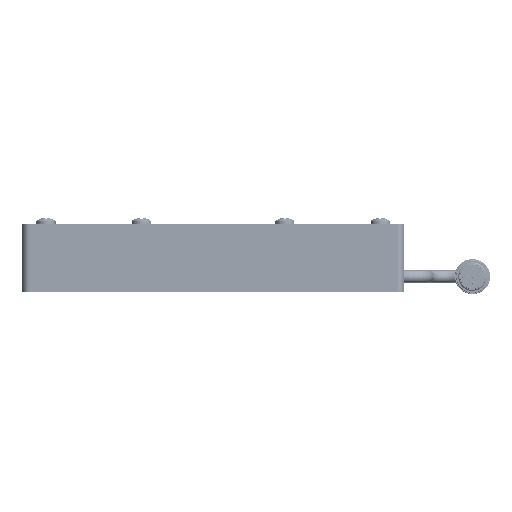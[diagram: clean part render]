
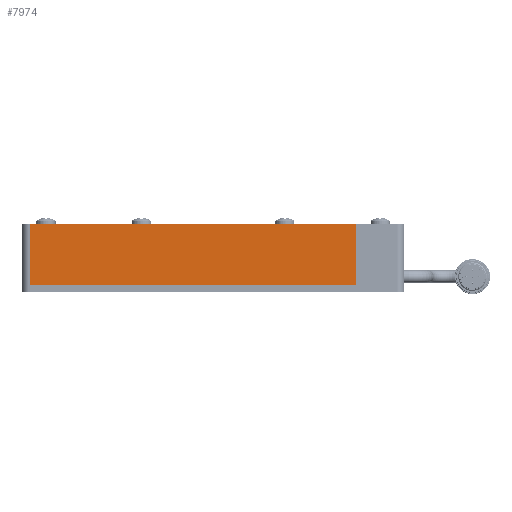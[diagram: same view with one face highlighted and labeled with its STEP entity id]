
A CAD part, left-side view. The second image highlights one B-rep face of the part: STEP entity #7974.
In plain terms, the highlighted planar face has unit normal (-1, 0, 0) as drawn and (0, 0, -1) by its records, which use the part's own axes.
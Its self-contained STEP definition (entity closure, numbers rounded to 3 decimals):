
#255 = DIRECTION ( 'NONE',  ( 1., 0., 0. ) ) ;
#266 = DIRECTION ( 'NONE',  ( -1., 0., 0. ) ) ;
#423 = CARTESIAN_POINT ( 'NONE',  ( -80., 12.7, -10. ) ) ;
#677 = EDGE_CURVE ( 'NONE', #7751, #10909, #8093, .T. ) ;
#717 = CARTESIAN_POINT ( 'NONE',  ( -60., -12.7, -10. ) ) ;
#1034 = DIRECTION ( 'NONE',  ( -1., 0., 0. ) ) ;
#1552 = FACE_OUTER_BOUND ( 'NONE', #10667, .T. ) ;
#1561 = LINE ( 'NONE', #423, #4377 ) ;
#1714 = CARTESIAN_POINT ( 'NONE',  ( 76.825, 12.7, -10. ) ) ;
#2137 = ORIENTED_EDGE ( 'NONE', *, *, #6509, .F. ) ;
#2203 = LINE ( 'NONE', #5682, #10184 ) ;
#2383 = EDGE_CURVE ( 'NONE', #4370, #10909, #2203, .T. ) ;
#3139 = CARTESIAN_POINT ( 'NONE',  ( 76.825, -12.7, -10. ) ) ;
#4370 = VERTEX_POINT ( 'NONE', #9678 ) ;
#4377 = VECTOR ( 'NONE', #266, 1000. ) ;
#5369 = VECTOR ( 'NONE', #1034, 1000. ) ;
#5682 = CARTESIAN_POINT ( 'NONE',  ( -60., 248.492, -10. ) ) ;
#6191 = LINE ( 'NONE', #1714, #7476 ) ;
#6344 = DIRECTION ( 'NONE',  ( 0., -1., 0. ) ) ;
#6509 = EDGE_CURVE ( 'NONE', #7328, #4370, #1561, .T. ) ;
#6802 = CARTESIAN_POINT ( 'NONE',  ( -80., -12.7, -10. ) ) ;
#7328 = VERTEX_POINT ( 'NONE', #8861 ) ;
#7476 = VECTOR ( 'NONE', #6344, 1000. ) ;
#7751 = VERTEX_POINT ( 'NONE', #3139 ) ;
#7974 = ADVANCED_FACE ( 'NONE', ( #1552 ), #10676, .F. ) ;
#8027 = AXIS2_PLACEMENT_3D ( 'NONE', #14150, #10832, #255 ) ;
#8093 = LINE ( 'NONE', #6802, #5369 ) ;
#8861 = CARTESIAN_POINT ( 'NONE',  ( 76.825, 12.7, -10. ) ) ;
#9158 = ORIENTED_EDGE ( 'NONE', *, *, #2383, .F. ) ;
#9678 = CARTESIAN_POINT ( 'NONE',  ( -60., 12.7, -10. ) ) ;
#10184 = VECTOR ( 'NONE', #12677, 1000. ) ;
#10667 = EDGE_LOOP ( 'NONE', ( #2137, #14839, #11278, #9158 ) ) ;
#10676 = PLANE ( 'NONE',  #8027 ) ;
#10832 = DIRECTION ( 'NONE',  ( 0., 0., 1. ) ) ;
#10909 = VERTEX_POINT ( 'NONE', #717 ) ;
#11278 = ORIENTED_EDGE ( 'NONE', *, *, #677, .T. ) ;
#12677 = DIRECTION ( 'NONE',  ( 0., -1., 0. ) ) ;
#14150 = CARTESIAN_POINT ( 'NONE',  ( -80., 12.7, -10. ) ) ;
#14839 = ORIENTED_EDGE ( 'NONE', *, *, #15008, .T. ) ;
#15008 = EDGE_CURVE ( 'NONE', #7328, #7751, #6191, .T. ) ;
